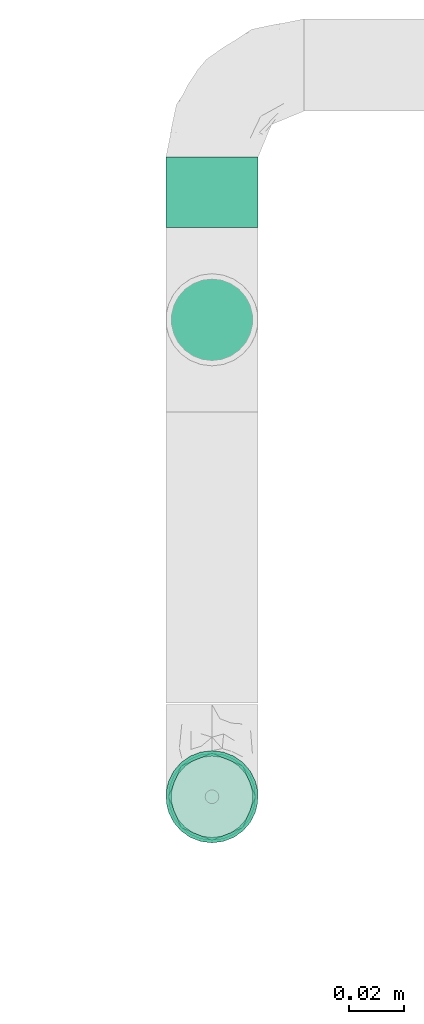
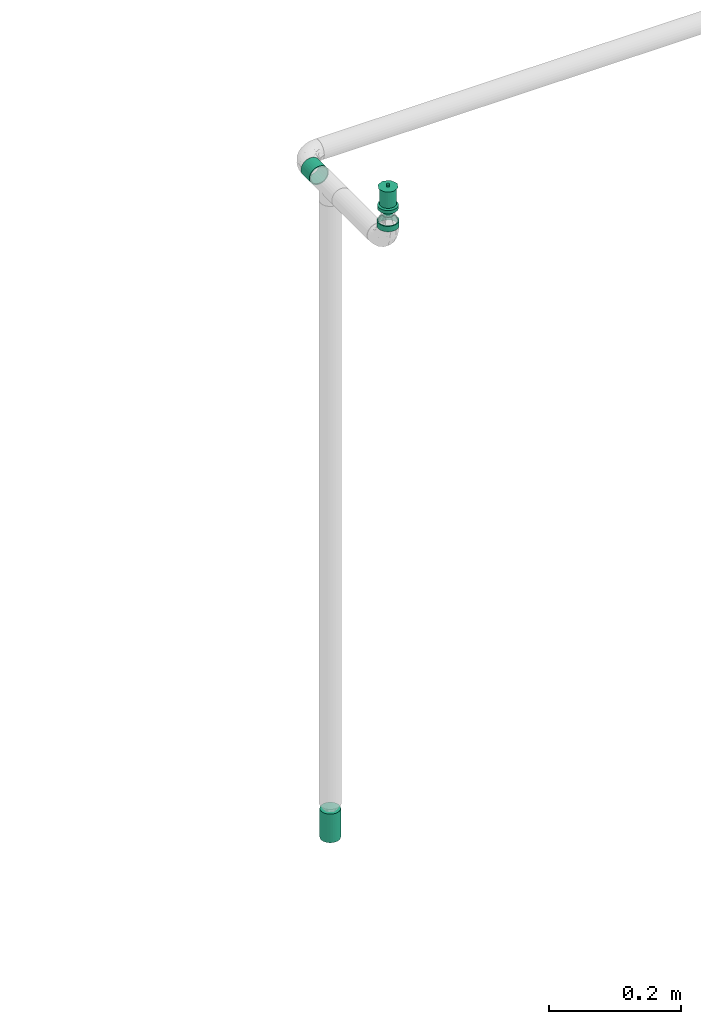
# One storey, part 73 of 94: 2 flow segments, 2 flow terminals.
"""IFC2X3 building model written with IfcOpenShell, lengths in millimetres."""

from ifc_helpers import new_model, entity, si_unit, converted_unit, derived_unit, direction, frame, origin_with_axes, origin_2d_with_axis, place, context, subcontext, project, spatial, hollow_circle, extrude, open_shell, surface_model, source, transform, mapped, type_object, element, save


model = new_model("IFC2X3")

# Units and contexts
model_context = context("Model", 3, precision=0.01, world=frame((0.0, 4.29681676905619e-09, 0.0)), true_north=direction((4.01073788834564e-13, 1.0)))
plan_context = context("Plan", 3, precision=0.01, world=frame((0.0, 4.29681676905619e-09, 0.0)), true_north=direction((4.01073788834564e-13, 1.0)))
body_context = subcontext(model_context, "Body", "Model", "MODEL_VIEW")
ifc_project = project(units=[converted_unit("PLANEANGLEUNIT", "DEGREE", entity("IfcPositiveLengthMeasure", 0.0174532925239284), si_unit("PLANEANGLEUNIT", "RADIAN"), dimensions=[0, 0, 0, 0, 0, 0, 0]), si_unit("AREAUNIT", "SQUARE_METRE"), si_unit("LENGTHUNIT", "METRE", prefix="MILLI"), si_unit("MASSUNIT", "GRAM", prefix="KILO"), si_unit("POWERUNIT", "WATT"), si_unit("PRESSUREUNIT", "PASCAL", prefix="KILO"), si_unit("FORCEUNIT", "NEWTON", prefix="KILO"), si_unit("ELECTRICVOLTAGEUNIT", "VOLT"), si_unit("ELECTRICCURRENTUNIT", "AMPERE"), si_unit("THERMODYNAMICTEMPERATUREUNIT", "DEGREE_CELSIUS"), si_unit("TIMEUNIT", "SECOND"), si_unit("VOLUMEUNIT", "CUBIC_METRE"), derived_unit("LINEARVELOCITYUNIT", [(si_unit("LENGTHUNIT", "METRE"), 1), (si_unit("TIMEUNIT", "SECOND"), -1)]), derived_unit("VOLUMETRICFLOWRATEUNIT", [(si_unit("VOLUMEUNIT", "CUBIC_METRE"), 1), (si_unit("TIMEUNIT", "SECOND"), -1)]), derived_unit("THERMALTRANSMITTANCEUNIT", [(si_unit("POWERUNIT", "WATT"), 1), (si_unit("THERMODYNAMICTEMPERATUREUNIT", "KELVIN"), -1), (si_unit("AREAUNIT", "SQUARE_METRE"), -1)]), derived_unit("SOUNDPRESSUREUNIT", [(si_unit("PRESSUREUNIT", "PASCAL"), 1)])], contexts=[model_context, plan_context])

# Site, building, storey
site_placement = place(None, frame((0.0, -4.29681676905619e-09, 0.0), z_axis=(0.0, 0.0, 1.0), x_axis=(1.0, 0.0, 0.0)))
site = spatial("IfcSite", under=ifc_project, at=site_placement, CompositionType="ELEMENT")
building_placement = place(site_placement, frame((0.0, 4.29681676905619e-09, 0.0), z_axis=(0.0, 0.0, 1.0), x_axis=(1.0, 0.0, 0.0)))
building = spatial("IfcBuilding", under=site, at=building_placement, Name="mc-building", CompositionType="ELEMENT")
storey_placement = place(building_placement, frame((0.0, 0.0, 210900.0), z_axis=(0.0, 0.0, 1.0), x_axis=(1.0, 0.0, 0.0)))
storey = spatial("IfcBuildingStorey", under=building, at=storey_placement, Name="Nivå F", CompositionType="ELEMENT", Elevation=210900.0)

# Flow segments
pipe_segment_type = type_object("IfcPipeSegmentType", Name="Stålrør normaltykke", PredefinedType="RIGIDSEGMENT")
shared_shape_1 = source(origin_with_axes(), body_context, "Body", "SweptSolid", [
    extrude(hollow_circle(Radius=16.9, WallThickness=2.0, at=origin_2d_with_axis()), frame((0.0, 0.0, 0.0), z_axis=(1.0, 0.0, 0.0), x_axis=(0.0, 1.0, 0.0)), (0.0, 0.0, 1.0), 10.1),
])
flow_segment_1_placement = place(storey_placement, frame((715905.60992, 443491.81041, 4233.79999999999), z_axis=(1.0, 0.0, 0.0), x_axis=(0.0, 0.0, 1.0)))
element("IfcFlowSegment", 1, at=flow_segment_1_placement, inside=storey, type_object=pipe_segment_type, Name="Stålrør normaltykke", context=body_context, shape_type="MappedRepresentation", body=[
    mapped(shared_shape_1, transform((0.0, 0.0, 0.0), scale=1.0)),
])
shared_shape_2 = source(origin_with_axes(), body_context, "Body", "SweptSolid", [
    extrude(hollow_circle(Radius=16.9, WallThickness=2.0, at=origin_2d_with_axis()), frame((0.0, 0.0, 0.0), z_axis=(1.0, 0.0, 0.0), x_axis=(0.0, 1.0, 0.0)), (0.0, 0.0, 1.0), 25.8),
])
flow_segment_2_placement = place(storey_placement, frame((715905.60992, 443726.3901, 4200.0), z_axis=(0.0, 0.0, 1.0), x_axis=(0.0, -1.0, 0.0)))
element("IfcFlowSegment", 2, at=flow_segment_2_placement, inside=storey, type_object=pipe_segment_type, Name="Stålrør normaltykke", context=body_context, shape_type="MappedRepresentation", body=[
    mapped(shared_shape_2, transform((0.0, 0.0, 0.0), scale=1.0)),
])

# Flow terminals
fire_suppression_terminal_type_1 = type_object("IfcFireSuppressionTerminalType", Name="68DGR-STD-STÅENDE", PredefinedType="NOTDEFINED")
shared_shape_3 = source(origin_with_axes(), body_context, "Body", "SurfaceModel", [
    surface_model("IfcShellBasedSurfaceModel", [(3.36465, -12.55704, 51.0), (6.5, -11.25833, 51.0), (9.19239, -9.19239, 51.0), (12.55704, -3.36465, 51.0), (-11.25833, -6.5, 51.0), (11.25833, -6.5, 51.0), (-13.0, 0.0, 51.0), (0.0, -13.0, 51.0), (-6.5, -11.25833, 51.0), (-3.36465, -12.55704, 51.0), (-9.19239, -9.19239, 51.0), (-12.55704, -3.36465, 51.0), (13.0, 0.0, 51.0), (12.55704, 3.36465, 51.0), (11.25833, 6.5, 51.0), (9.19239, 9.19239, 51.0), (6.5, 11.25833, 51.0), (3.36465, 12.55704, 51.0), (0.0, 13.0, 51.0), (-3.36465, 12.55704, 51.0), (-12.55704, 3.36465, 51.0), (-9.19239, 9.19239, 51.0), (-11.25833, 6.5, 51.0), (-6.5, 11.25833, 51.0), (0.0, 13.0, 21.14766), (3.36465, 12.55704, 21.14766), (6.5, 11.25833, 21.14766), (-3.36465, 12.55704, 21.14766), (9.19239, 9.19239, 21.14766), (11.25833, 6.5, 21.14766), (12.55704, 3.36465, 21.14766), (-12.55704, 3.36465, 21.14766), (-11.25833, -6.5, 21.14766), (-9.19239, 9.19239, 21.14766), (-6.5, 11.25833, 21.14766), (-11.25833, 6.5, 21.14766), (-13.0, 0.0, 21.14766), (12.55704, -3.36465, 21.14766), (9.19239, -9.19239, 21.14766), (11.25833, -6.5, 21.14766), (6.5, -11.25833, 21.14766), (3.36465, -12.55704, 21.14766), (-6.5, -11.25833, 21.14766), (-9.19239, -9.19239, 21.14766), (-12.55704, -3.36465, 21.14766), (0.0, -13.0, 21.14766), (-3.36465, -12.55704, 21.14766), (13.0, 0.0, 21.14766), (7.24444, -1.94114, 0.1), (1.94114, -7.24444, 0.1), (3.75, -6.49519, 0.1), (5.3033, -5.3033, 0.1), (-5.3033, -5.3033, 0.1), (6.49519, -3.75, 0.1), (5.3033, 5.3033, 0.1), (0.0, -7.5, 0.1), (-3.75, -6.49519, 0.1), (-1.94114, -7.24444, 0.1), (-7.24444, -1.94114, 0.1), (-6.49519, -3.75, 0.1), (-7.24444, 1.94114, 0.1), (7.5, 0.0, 0.1), (6.49519, 3.75, 0.1), (-6.49519, 3.75, 0.1), (1.94114, 7.24444, 0.1), (0.0, 7.5, 0.1), (3.75, 6.49519, 0.1), (-7.5, 0.0, 0.1), (-5.3033, 5.3033, 0.1), (-1.94114, 7.24444, 0.1), (-3.75, 6.49519, 0.1), (7.24444, 1.94114, 0.1), (1.94114, 7.24444, -0.1), (-6.49519, 3.75, -0.1), (0.0, 7.5, -0.1), (5.3033, 5.3033, -0.1), (3.75, 6.49519, -0.1), (6.49519, 3.75, -0.1), (7.24444, 1.94114, -0.1), (-1.94114, 7.24444, -0.1), (-5.3033, 5.3033, -0.1), (-3.75, 6.49519, -0.1), (-7.24444, 1.94114, -0.1), (-7.24444, -1.94114, -0.1), (-7.5, 0.0, -0.1), (7.5, 0.0, -0.1), (7.24444, -1.94114, -0.1), (-5.3033, -5.3033, -0.1), (1.94114, -7.24444, -0.1), (6.49519, -3.75, -0.1), (5.3033, -5.3033, -0.1), (3.75, -6.49519, -0.1), (-6.49519, -3.75, -0.1), (-3.75, -6.49519, -0.1), (0.0, -7.5, -0.1), (-1.94114, -7.24444, -0.1), (0.0, -2.5, 51.0), (-2.5, 0.0, 51.0), (0.0, 2.5, 51.0), (2.5, 0.0, 51.0), (0.0, -16.0, 53.0), (11.31371, -11.31371, 53.0), (-11.31371, -11.31371, 53.0), (-16.0, 0.0, 53.0), (16.0, 0.0, 53.0), (11.31371, 11.31371, 53.0), (0.0, 16.0, 53.0), (-11.31371, 11.31371, 53.0), (1.25, -2.16506, 57.0), (0.0, -2.5, 57.0), (0.64705, -2.41481, 57.0), (2.41481, -0.64705, 57.0), (1.76777, -1.76777, 57.0), (-2.41481, -0.64705, 57.0), (-2.5, 0.0, 57.0), (2.16506, -1.25, 57.0), (-1.25, -2.16506, 57.0), (-0.64705, -2.41481, 57.0), (-1.76777, -1.76777, 57.0), (-2.16506, -1.25, 57.0), (2.5, 0.0, 57.0), (2.41481, 0.64705, 57.0), (2.16506, 1.25, 57.0), (1.76777, 1.76777, 57.0), (0.64705, 2.41481, 57.0), (1.25, 2.16506, 57.0), (-1.76777, 1.76777, 57.0), (0.0, 2.5, 57.0), (-2.16506, 1.25, 57.0), (-2.41481, 0.64705, 57.0), (-0.64705, 2.41481, 57.0), (-1.25, 2.16506, 57.0), (1.25, 2.16506, 51.0), (1.76777, 1.76777, 51.0), (1.15, 1.99186, 51.0), (0.59528, 2.22163, 51.0), (0.64705, 2.41481, 51.0), (0.0, 2.3, 51.0), (1.62635, 1.62635, 51.0), (2.41481, 0.64705, 51.0), (2.3, 0.0, 51.0), (2.22163, 0.59528, 51.0), (2.16506, 1.25, 51.0), (1.99186, 1.15, 51.0), (-0.59528, 2.22163, 51.0), (-0.64705, 2.41481, 51.0), (-1.15, 1.99186, 51.0), (-1.76777, 1.76777, 51.0), (-1.25, 2.16506, 51.0), (-1.62635, 1.62635, 51.0), (-1.99186, 1.15, 51.0), (-2.16506, 1.25, 51.0), (-2.22163, 0.59528, 51.0), (-2.41481, 0.64705, 51.0), (-2.3, 0.0, 51.0), (2.41481, -0.64705, 51.0), (2.22163, -0.59528, 51.0), (1.99186, -1.15, 51.0), (2.16506, -1.25, 51.0), (1.62635, -1.62635, 51.0), (1.76777, -1.76777, 51.0), (1.25, -2.16506, 51.0), (1.15, -1.99186, 51.0), (0.59528, -2.22163, 51.0), (0.64705, -2.41481, 51.0), (0.0, -2.3, 51.0), (-2.16506, -1.25, 51.0), (-1.99186, -1.15, 51.0), (-1.76777, -1.76777, 51.0), (-1.62635, -1.62635, 51.0), (-2.41481, -0.64705, 51.0), (-2.22163, -0.59528, 51.0), (-0.59528, -2.22163, 51.0), (-0.64705, -2.41481, 51.0), (-1.15, -1.99186, 51.0), (-1.25, -2.16506, 51.0), (1.62635, -1.62635, 56.8), (1.15, -1.99186, 56.8), (0.59528, -2.22163, 56.8), (0.0, -2.3, 56.8), (2.22163, 0.59528, 56.8), (1.99186, -1.15, 56.8), (2.22163, -0.59528, 56.8), (-0.59528, -2.22163, 56.8), (-1.15, -1.99186, 56.8), (-1.62635, -1.62635, 56.8), (-1.99186, -1.15, 56.8), (-2.22163, -0.59528, 56.8), (-1.99186, 1.15, 56.8), (2.3, 0.0, 56.8), (1.62635, 1.62635, 56.8), (1.99186, 1.15, 56.8), (1.15, 1.99186, 56.8), (0.0, 2.3, 56.8), (0.59528, 2.22163, 56.8), (-2.22163, 0.59528, 56.8), (-2.3, 0.0, 56.8), (-1.15, 1.99186, 56.8), (-0.59528, 2.22163, 56.8), (-1.62635, 1.62635, 56.8), (4.1411, -15.45481, 19.0), (8.0, -13.85641, 19.0), (11.31371, -11.31371, 19.0), (-8.0, -13.85641, 19.0), (15.45481, -4.1411, 19.0), (16.0, 0.0, 19.0), (13.85641, -8.0, 19.0), (0.0, -16.0, 19.0), (-4.1411, -15.45481, 19.0), (-13.85641, -8.0, 19.0), (-11.31371, -11.31371, 19.0), (-15.45481, -4.1411, 19.0), (15.45481, 4.1411, 19.0), (13.85641, 8.0, 19.0), (11.31371, 11.31371, 19.0), (-4.1411, 15.45481, 19.0), (8.0, 13.85641, 19.0), (4.1411, 15.45481, 19.0), (0.0, 16.0, 19.0), (-13.85641, 8.0, 19.0), (-15.45481, 4.1411, 19.0), (-16.0, 0.0, 19.0), (-11.31371, 11.31371, 19.0), (-8.0, 13.85641, 19.0), (0.0, 16.0, 13.0), (4.1411, 15.45481, 13.0), (8.0, 13.85641, 13.0), (-4.1411, 15.45481, 13.0), (11.31371, 11.31371, 13.0), (13.85641, 8.0, 13.0), (15.45481, 4.1411, 13.0), (-15.45481, -4.1411, 13.0), (-11.31371, 11.31371, 13.0), (-8.0, 13.85641, 13.0), (-13.85641, 8.0, 13.0), (-15.45481, 4.1411, 13.0), (-16.0, 0.0, 13.0), (4.1411, -15.45481, 13.0), (16.0, 0.0, 13.0), (15.45481, -4.1411, 13.0), (13.85641, -8.0, 13.0), (11.31371, -11.31371, 13.0), (8.0, -13.85641, 13.0), (-8.0, -13.85641, 13.0), (-13.85641, -8.0, 13.0), (-11.31371, -11.31371, 13.0), (0.0, -16.0, 13.0), (-4.1411, -15.45481, 13.0), (7.24444, -1.94114, 13.0), (1.94114, -7.24444, 13.0), (3.75, -6.49519, 13.0), (5.3033, -5.3033, 13.0), (-5.3033, -5.3033, 13.0), (6.49519, -3.75, 13.0), (5.3033, 5.3033, 13.0), (0.0, -7.5, 13.0), (-3.75, -6.49519, 13.0), (-1.94114, -7.24444, 13.0), (-7.24444, -1.94114, 13.0), (-6.49519, -3.75, 13.0), (-7.24444, 1.94114, 13.0), (7.5, 0.0, 13.0), (6.49519, 3.75, 13.0), (-6.49519, 3.75, 13.0), (1.94114, 7.24444, 13.0), (0.0, 7.5, 13.0), (3.75, 6.49519, 13.0), (-7.5, 0.0, 13.0), (-5.3033, 5.3033, 13.0), (-1.94114, 7.24444, 13.0), (-3.75, 6.49519, 13.0), (7.24444, 1.94114, 13.0), (3.75, 6.49519, 0.0), (5.3033, 5.3033, 0.0), (3.65, 6.32199, 0.0), (1.88938, 7.05126, 0.0), (0.0, 7.3, 0.0), (1.94114, 7.24444, 0.0), (0.0, 7.5, 0.0), (5.16188, 5.16188, 0.0), (7.24444, 1.94114, 0.0), (7.3, 0.0, 0.0), (7.05126, 1.88938, 0.0), (7.5, 0.0, 0.0), (6.49519, 3.75, 0.0), (6.32199, 3.65, 0.0), (-1.88938, 7.05126, 0.0), (-1.94114, 7.24444, 0.0), (-3.65, 6.32199, 0.0), (-5.3033, 5.3033, 0.0), (-3.75, 6.49519, 0.0), (-5.16188, 5.16188, 0.0), (-6.32199, 3.65, 0.0), (-6.49519, 3.75, 0.0), (-7.05126, 1.88938, 0.0), (-7.24444, 1.94114, 0.0), (-7.3, 0.0, 0.0), (-7.5, 0.0, 0.0), (7.24444, -1.94114, 0.0), (7.05126, -1.88938, 0.0), (6.32199, -3.65, 0.0), (6.49519, -3.75, 0.0), (5.16188, -5.16188, 0.0), (5.3033, -5.3033, 0.0), (3.75, -6.49519, 0.0), (3.65, -6.32199, 0.0), (1.88938, -7.05126, 0.0), (1.94114, -7.24444, 0.0), (0.0, -7.3, 0.0), (0.0, -7.5, 0.0), (-6.49519, -3.75, 0.0), (-6.32199, -3.65, 0.0), (-5.3033, -5.3033, 0.0), (-5.16188, -5.16188, 0.0), (-7.24444, -1.94114, 0.0), (-7.05126, -1.88938, 0.0), (-1.88938, -7.05126, 0.0), (-1.94114, -7.24444, 0.0), (-3.65, -6.32199, 0.0), (-3.75, -6.49519, 0.0), (1.88938, -7.05126, 12.8), (0.0, -7.3, 12.8), (3.65, -6.32199, 12.8), (5.16188, -5.16188, 12.8), (6.32199, -3.65, 12.8), (7.05126, 1.88938, 12.8), (7.05126, -1.88938, 12.8), (-5.16188, -5.16188, 12.8), (-1.88938, -7.05126, 12.8), (-3.65, -6.32199, 12.8), (-6.32199, -3.65, 12.8), (-7.05126, -1.88938, 12.8), (0.0, 7.3, 12.8), (7.3, 0.0, 12.8), (6.32199, 3.65, 12.8), (5.16188, 5.16188, 12.8), (3.65, 6.32199, 12.8), (1.88938, 7.05126, 12.8), (-6.32199, 3.65, 12.8), (-7.05126, 1.88938, 12.8), (-7.3, 0.0, 12.8), (-3.65, 6.32199, 12.8), (-1.88938, 7.05126, 12.8), (-5.16188, 5.16188, 12.8)], [open_shell([[[0, 1, 2]], [[0, 2, 3]], [[0, 3, 4]], [[3, 2, 5]], [[6, 4, 3]], [[7, 8, 9]], [[7, 0, 8]], [[8, 4, 10]], [[0, 4, 8]], [[4, 6, 11]], [[6, 3, 12]], [[13, 14, 15]], [[6, 13, 15]], [[16, 17, 18]], [[15, 16, 19]], [[18, 19, 16]], [[20, 21, 22]], [[20, 6, 15]], [[21, 19, 23]], [[19, 21, 20]], [[15, 19, 20]], [[13, 6, 12]], [[24, 25, 26]], [[27, 24, 26]], [[28, 29, 30]], [[26, 28, 31]], [[28, 32, 31]], [[27, 33, 34]], [[33, 27, 31]], [[33, 31, 35]], [[27, 26, 31]], [[31, 32, 36]], [[32, 28, 30]], [[32, 30, 37]], [[38, 37, 39]], [[38, 40, 41]], [[38, 41, 37]], [[32, 37, 41]], [[32, 42, 43]], [[44, 36, 32]], [[42, 45, 46]], [[42, 32, 41]], [[45, 42, 41]], [[30, 47, 37]], [[4, 32, 43]], [[8, 42, 46]], [[43, 42, 10]], [[9, 46, 45]], [[36, 11, 6]], [[11, 36, 44]], [[11, 44, 4]], [[44, 32, 4]], [[43, 10, 4]], [[8, 10, 42]], [[46, 9, 8]], [[45, 7, 9]], [[0, 41, 40]], [[38, 1, 40]], [[5, 39, 37]], [[38, 39, 2]], [[3, 37, 47]], [[41, 0, 7]], [[40, 1, 0]], [[38, 2, 1]], [[39, 5, 2]], [[3, 5, 37]], [[47, 12, 3]], [[41, 7, 45]], [[30, 13, 47]], [[29, 14, 30]], [[25, 24, 17]], [[15, 29, 28]], [[30, 14, 13]], [[13, 12, 47]], [[16, 26, 17]], [[16, 15, 28]], [[26, 25, 17]], [[15, 14, 29]], [[28, 26, 16]], [[24, 18, 17]], [[19, 27, 34]], [[33, 23, 34]], [[22, 35, 31]], [[33, 35, 21]], [[20, 31, 36]], [[27, 19, 18]], [[34, 23, 19]], [[33, 21, 23]], [[35, 22, 21]], [[20, 22, 31]], [[36, 6, 20]], [[27, 18, 24]], [[48, 49, 50]], [[48, 50, 51]], [[49, 48, 52]], [[48, 51, 53]], [[54, 52, 48]], [[55, 56, 57]], [[56, 55, 52]], [[52, 58, 59]], [[52, 55, 49]], [[52, 60, 58]], [[54, 48, 61]], [[62, 54, 61]], [[54, 63, 52]], [[64, 65, 54]], [[64, 54, 66]], [[63, 54, 65]], [[63, 60, 52]], [[67, 58, 60]], [[68, 69, 70]], [[69, 68, 63]], [[69, 63, 65]], [[71, 62, 61]], [[72, 73, 74]], [[75, 72, 76]], [[75, 77, 78]], [[72, 75, 73]], [[78, 73, 75]], [[79, 80, 81]], [[80, 79, 73]], [[74, 73, 79]], [[78, 82, 73]], [[82, 83, 84]], [[82, 78, 85]], [[86, 87, 85]], [[88, 86, 89]], [[90, 91, 88]], [[90, 88, 89]], [[87, 86, 88]], [[83, 87, 92]], [[83, 85, 87]], [[93, 94, 95]], [[94, 93, 87]], [[88, 94, 87]], [[85, 83, 82]], [[83, 58, 84]], [[92, 59, 83]], [[56, 87, 93]], [[92, 87, 52]], [[57, 93, 95]], [[83, 59, 58]], [[58, 67, 84]], [[57, 56, 93]], [[52, 87, 56]], [[52, 59, 92]], [[55, 57, 95]], [[95, 94, 55]], [[88, 49, 94]], [[91, 50, 88]], [[53, 90, 89]], [[91, 90, 51]], [[48, 89, 86]], [[91, 51, 50]], [[50, 49, 88]], [[61, 48, 86]], [[53, 89, 48]], [[53, 51, 90]], [[85, 61, 86]], [[94, 49, 55]], [[78, 71, 85]], [[77, 62, 78]], [[66, 75, 76]], [[77, 75, 54]], [[64, 76, 72]], [[78, 62, 71]], [[71, 61, 85]], [[64, 66, 76]], [[54, 75, 66]], [[54, 62, 77]], [[65, 64, 72]], [[72, 74, 65]], [[79, 69, 74]], [[81, 70, 79]], [[63, 80, 73]], [[81, 80, 68]], [[60, 73, 82]], [[81, 68, 70]], [[70, 69, 79]], [[67, 60, 82]], [[63, 73, 60]], [[63, 68, 80]], [[84, 67, 82]], [[74, 69, 65]], [[96, 97, 98]], [[98, 99, 96]], [[100, 101, 102]], [[103, 102, 101]], [[101, 104, 103]], [[104, 105, 106]], [[107, 103, 106]], [[106, 103, 104]], [[99, 98, 105]], [[105, 104, 99]], [[98, 106, 105]], [[98, 107, 106]], [[107, 98, 97]], [[103, 107, 97]], [[97, 96, 102]], [[102, 103, 97]], [[96, 100, 102]], [[96, 101, 100]], [[101, 96, 99]], [[104, 101, 99]], [[108, 109, 110]], [[111, 108, 112]], [[113, 108, 114]], [[111, 112, 115]], [[108, 111, 114]], [[109, 116, 117]], [[116, 109, 118]], [[118, 113, 119]], [[118, 109, 108]], [[108, 113, 118]], [[111, 120, 114]], [[121, 122, 123]], [[114, 121, 123]], [[114, 123, 124]], [[124, 123, 125]], [[126, 124, 127]], [[124, 128, 129]], [[129, 114, 124]], [[126, 130, 131]], [[128, 124, 126]], [[130, 126, 127]], [[121, 114, 120]], [[132, 133, 134]], [[132, 134, 135]], [[136, 135, 137]], [[135, 136, 132]], [[136, 137, 98]], [[134, 133, 138]], [[139, 140, 141]], [[140, 139, 99]], [[139, 141, 142]], [[138, 142, 143]], [[142, 138, 133]], [[143, 142, 141]], [[98, 144, 145]], [[98, 137, 144]], [[145, 144, 146]], [[147, 148, 149]], [[146, 148, 145]], [[149, 148, 146]], [[150, 151, 147]], [[151, 150, 152]], [[150, 147, 149]], [[153, 152, 154]], [[152, 153, 151]], [[153, 154, 97]], [[99, 155, 156]], [[156, 155, 157]], [[157, 158, 159]], [[158, 157, 155]], [[159, 158, 160]], [[160, 161, 162]], [[162, 161, 163]], [[163, 164, 165]], [[164, 163, 161]], [[165, 164, 96]], [[162, 159, 160]], [[166, 167, 168]], [[168, 167, 169]], [[167, 166, 170]], [[97, 171, 170]], [[170, 171, 167]], [[97, 154, 171]], [[172, 96, 173]], [[172, 173, 174]], [[169, 175, 168]], [[175, 169, 174]], [[175, 174, 173]], [[165, 96, 172]], [[156, 140, 99]], [[170, 113, 97]], [[166, 119, 170]], [[116, 168, 175]], [[166, 168, 118]], [[117, 175, 173]], [[170, 119, 113]], [[113, 114, 97]], [[117, 116, 175]], [[118, 168, 116]], [[118, 119, 166]], [[109, 117, 173]], [[173, 96, 109]], [[164, 110, 96]], [[161, 108, 164]], [[115, 160, 158]], [[161, 160, 112]], [[111, 158, 155]], [[161, 112, 108]], [[108, 110, 164]], [[120, 111, 155]], [[115, 158, 111]], [[115, 112, 160]], [[99, 120, 155]], [[96, 110, 109]], [[139, 121, 99]], [[142, 122, 139]], [[125, 133, 132]], [[142, 133, 123]], [[124, 132, 136]], [[139, 122, 121]], [[121, 120, 99]], [[124, 125, 132]], [[123, 133, 125]], [[123, 122, 142]], [[127, 124, 136]], [[136, 98, 127]], [[145, 130, 98]], [[148, 131, 145]], [[128, 147, 151]], [[148, 147, 126]], [[129, 151, 153]], [[148, 126, 131]], [[131, 130, 145]], [[114, 129, 153]], [[128, 151, 129]], [[128, 126, 147]], [[97, 114, 153]], [[98, 130, 127]], [[176, 177, 178]], [[176, 178, 179]], [[180, 176, 179]], [[181, 176, 182]], [[180, 182, 176]], [[183, 184, 179]], [[185, 179, 184]], [[186, 187, 185]], [[185, 187, 188]], [[179, 185, 188]], [[189, 182, 180]], [[190, 191, 180]], [[192, 190, 180]], [[193, 194, 192]], [[180, 193, 192]], [[188, 193, 180]], [[195, 188, 196]], [[196, 188, 187]], [[197, 198, 199]], [[188, 199, 198]], [[188, 198, 193]], [[180, 179, 188]], [[154, 187, 171]], [[171, 186, 167]], [[174, 169, 184]], [[185, 169, 167]], [[172, 174, 183]], [[187, 186, 171]], [[154, 196, 187]], [[174, 184, 183]], [[184, 169, 185]], [[167, 186, 185]], [[172, 183, 179]], [[179, 165, 172]], [[165, 178, 163]], [[163, 177, 162]], [[157, 159, 181]], [[176, 159, 162]], [[156, 157, 182]], [[177, 176, 162]], [[163, 178, 177]], [[156, 182, 189]], [[182, 157, 181]], [[159, 176, 181]], [[156, 189, 140]], [[179, 178, 165]], [[140, 180, 141]], [[141, 191, 143]], [[134, 138, 192]], [[190, 138, 143]], [[135, 134, 194]], [[180, 191, 141]], [[140, 189, 180]], [[134, 192, 194]], [[192, 138, 190]], [[143, 191, 190]], [[135, 194, 193]], [[193, 137, 135]], [[137, 198, 144]], [[144, 197, 146]], [[150, 149, 188]], [[199, 149, 146]], [[152, 150, 195]], [[197, 199, 146]], [[144, 198, 197]], [[152, 195, 196]], [[195, 150, 188]], [[149, 199, 188]], [[152, 196, 154]], [[193, 198, 137]], [[200, 201, 202]], [[203, 200, 202]], [[204, 205, 202]], [[204, 202, 206]], [[203, 202, 205]], [[207, 203, 208]], [[207, 200, 203]], [[203, 209, 210]], [[209, 203, 211]], [[205, 211, 203]], [[205, 212, 211]], [[212, 213, 214]], [[215, 212, 214]], [[216, 217, 218]], [[214, 216, 215]], [[218, 215, 216]], [[211, 219, 220]], [[221, 211, 220]], [[222, 215, 223]], [[215, 222, 219]], [[219, 211, 215]], [[211, 212, 215]], [[224, 225, 226]], [[227, 224, 226]], [[228, 229, 230]], [[227, 226, 228]], [[227, 228, 231]], [[227, 232, 233]], [[232, 227, 234]], [[234, 231, 235]], [[231, 234, 227]], [[235, 231, 236]], [[228, 230, 231]], [[237, 238, 239]], [[237, 239, 240]], [[241, 242, 237]], [[241, 237, 240]], [[238, 237, 243]], [[244, 243, 245]], [[243, 244, 231]], [[243, 246, 247]], [[243, 231, 238]], [[237, 246, 243]], [[238, 231, 230]], [[231, 211, 236]], [[244, 209, 231]], [[203, 245, 243]], [[244, 245, 210]], [[208, 243, 247]], [[231, 209, 211]], [[211, 221, 236]], [[208, 203, 243]], [[210, 245, 203]], [[210, 209, 244]], [[207, 208, 247]], [[247, 246, 207]], [[237, 200, 246]], [[242, 201, 237]], [[206, 241, 240]], [[242, 241, 202]], [[204, 240, 239]], [[242, 202, 201]], [[201, 200, 237]], [[205, 204, 239]], [[206, 240, 204]], [[206, 202, 241]], [[238, 205, 239]], [[246, 200, 207]], [[230, 212, 238]], [[229, 213, 230]], [[216, 228, 226]], [[229, 228, 214]], [[217, 226, 225]], [[230, 213, 212]], [[212, 205, 238]], [[217, 216, 226]], [[214, 228, 216]], [[214, 213, 229]], [[218, 217, 225]], [[225, 224, 218]], [[227, 215, 224]], [[233, 223, 227]], [[219, 232, 234]], [[233, 232, 222]], [[220, 234, 235]], [[233, 222, 223]], [[223, 215, 227]], [[221, 220, 235]], [[219, 234, 220]], [[219, 222, 232]], [[236, 221, 235]], [[224, 215, 218]], [[248, 249, 250]], [[248, 250, 251]], [[249, 248, 252]], [[248, 251, 253]], [[254, 252, 248]], [[255, 256, 257]], [[256, 255, 252]], [[252, 258, 259]], [[252, 255, 249]], [[252, 260, 258]], [[254, 248, 261]], [[262, 254, 261]], [[254, 263, 252]], [[264, 265, 254]], [[264, 254, 266]], [[263, 254, 265]], [[263, 260, 252]], [[267, 258, 260]], [[268, 269, 270]], [[269, 268, 263]], [[269, 263, 265]], [[271, 262, 261]], [[272, 273, 274]], [[272, 274, 275]], [[276, 277, 275]], [[277, 276, 278]], [[275, 277, 272]], [[274, 273, 279]], [[280, 281, 282]], [[281, 280, 283]], [[280, 282, 284]], [[279, 284, 285]], [[284, 279, 273]], [[285, 284, 282]], [[278, 286, 287]], [[287, 286, 288]], [[289, 290, 291]], [[288, 290, 287]], [[288, 291, 290]], [[278, 276, 286]], [[292, 293, 289]], [[293, 292, 294]], [[292, 289, 291]], [[295, 294, 296]], [[294, 295, 293]], [[295, 296, 297]], [[283, 298, 299]], [[299, 298, 300]], [[300, 301, 302]], [[301, 300, 298]], [[302, 301, 303]], [[303, 304, 305]], [[305, 304, 306]], [[306, 307, 308]], [[307, 306, 304]], [[308, 307, 309]], [[305, 302, 303]], [[310, 311, 312]], [[312, 311, 313]], [[311, 310, 314]], [[297, 315, 314]], [[314, 315, 311]], [[297, 296, 315]], [[316, 309, 317]], [[316, 317, 318]], [[313, 319, 312]], [[313, 318, 319]], [[319, 318, 317]], [[308, 309, 316]], [[299, 281, 283]], [[314, 258, 297]], [[310, 259, 314]], [[256, 312, 319]], [[310, 312, 252]], [[257, 319, 317]], [[314, 259, 258]], [[258, 267, 297]], [[257, 256, 319]], [[252, 312, 256]], [[252, 259, 310]], [[255, 257, 317]], [[317, 309, 255]], [[307, 249, 309]], [[304, 250, 307]], [[253, 303, 301]], [[304, 303, 251]], [[248, 301, 298]], [[304, 251, 250]], [[250, 249, 307]], [[261, 248, 298]], [[253, 301, 248]], [[253, 251, 303]], [[283, 261, 298]], [[309, 249, 255]], [[280, 271, 283]], [[284, 262, 280]], [[266, 273, 272]], [[284, 273, 254]], [[264, 272, 277]], [[280, 262, 271]], [[271, 261, 283]], [[264, 266, 272]], [[254, 273, 266]], [[254, 262, 284]], [[265, 264, 277]], [[277, 278, 265]], [[287, 269, 278]], [[290, 270, 287]], [[263, 289, 293]], [[290, 289, 268]], [[260, 293, 295]], [[290, 268, 270]], [[270, 269, 287]], [[267, 260, 295]], [[263, 293, 260]], [[263, 268, 289]], [[297, 267, 295]], [[278, 269, 265]], [[320, 321, 322]], [[323, 322, 324]], [[325, 326, 322]], [[324, 322, 326]], [[322, 327, 325]], [[328, 329, 321]], [[327, 321, 329]], [[330, 331, 327]], [[322, 321, 327]], [[331, 332, 327]], [[326, 325, 333]], [[334, 325, 332]], [[335, 334, 336]], [[332, 337, 336]], [[334, 332, 336]], [[331, 338, 332]], [[339, 338, 340]], [[340, 338, 331]], [[341, 342, 343]], [[332, 338, 343]], [[332, 343, 342]], [[332, 325, 327]], [[296, 331, 315]], [[315, 330, 311]], [[318, 313, 329]], [[327, 313, 311]], [[316, 318, 328]], [[331, 330, 315]], [[296, 340, 331]], [[318, 329, 328]], [[329, 313, 327]], [[311, 330, 327]], [[316, 328, 321]], [[321, 308, 316]], [[308, 320, 306]], [[306, 322, 305]], [[300, 302, 324]], [[323, 302, 305]], [[299, 300, 326]], [[322, 323, 305]], [[306, 320, 322]], [[299, 326, 333]], [[326, 300, 324]], [[302, 323, 324]], [[299, 333, 281]], [[321, 320, 308]], [[281, 325, 282]], [[282, 334, 285]], [[274, 279, 336]], [[335, 279, 285]], [[275, 274, 337]], [[325, 334, 282]], [[281, 333, 325]], [[274, 336, 337]], [[336, 279, 335]], [[285, 334, 335]], [[275, 337, 332]], [[332, 276, 275]], [[276, 342, 286]], [[286, 341, 288]], [[292, 291, 338]], [[343, 291, 288]], [[294, 292, 339]], [[341, 343, 288]], [[286, 342, 341]], [[294, 339, 340]], [[339, 292, 338]], [[291, 343, 338]], [[294, 340, 296]], [[332, 342, 276]]])]),
])
flow_terminal_1_placement = place(storey_placement, frame((715905.60992, 443491.81041, 4253.30072), z_axis=(0.0, 0.0, 1.0), x_axis=(1.0, 0.0, 0.0)))
element("IfcFlowTerminal", 3, at=flow_terminal_1_placement, inside=storey, type_object=fire_suppression_terminal_type_1, Name="68DGR-STD-STÅENDE", context=body_context, shape_type="MappedRepresentation", body=[
    mapped(shared_shape_3, transform((0.0, 0.0, 0.0), scale=1.0)),
])
fire_suppression_terminal_type_2 = type_object("IfcFireSuppressionTerminalType", Name="SP-15-K80-68DGR-STD-HIMLING", PredefinedType="NOTDEFINED")
shared_shape_4 = source(origin_with_axes(), body_context, "Body", "SurfaceModel", [
    surface_model("IfcShellBasedSurfaceModel", [(4.1411, -15.45481, 53.0), (8.0, -13.85641, 53.0), (11.31371, -11.31371, 53.0), (-8.0, -13.85641, 53.0), (15.45481, -4.1411, 53.0), (16.0, 0.0, 53.0), (13.85641, -8.0, 53.0), (0.0, -16.0, 53.0), (-4.1411, -15.45481, 53.0), (-13.85641, -8.0, 53.0), (-11.31371, -11.31371, 53.0), (-15.45481, -4.1411, 53.0), (15.45481, 4.1411, 53.0), (13.85641, 8.0, 53.0), (11.31371, 11.31371, 53.0), (-4.1411, 15.45481, 53.0), (8.0, 13.85641, 53.0), (4.1411, 15.45481, 53.0), (0.0, 16.0, 53.0), (-13.85641, 8.0, 53.0), (-15.45481, 4.1411, 53.0), (-16.0, 0.0, 53.0), (-11.31371, 11.31371, 53.0), (-8.0, 13.85641, 53.0), (0.0, 16.0, 0.0), (4.1411, 15.45481, 0.0), (8.0, 13.85641, 0.0), (-4.1411, 15.45481, 0.0), (11.31371, 11.31371, 0.0), (13.85641, 8.0, 0.0), (15.45481, 4.1411, 0.0), (-15.45481, -4.1411, 0.0), (-11.31371, 11.31371, 0.0), (-8.0, 13.85641, 0.0), (-13.85641, 8.0, 0.0), (-15.45481, 4.1411, 0.0), (-16.0, 0.0, 0.0), (4.1411, -15.45481, 0.0), (16.0, 0.0, 0.0), (15.45481, -4.1411, 0.0), (13.85641, -8.0, 0.0), (11.31371, -11.31371, 0.0), (8.0, -13.85641, 0.0), (-8.0, -13.85641, 0.0), (-13.85641, -8.0, 0.0), (-11.31371, -11.31371, 0.0), (0.0, -16.0, 0.0), (-4.1411, -15.45481, 0.0)], [open_shell([[[0, 1, 2]], [[3, 0, 2]], [[4, 5, 2]], [[4, 2, 6]], [[3, 2, 5]], [[7, 3, 8]], [[7, 0, 3]], [[3, 9, 10]], [[9, 3, 11]], [[5, 11, 3]], [[5, 12, 11]], [[12, 13, 14]], [[15, 12, 14]], [[16, 17, 18]], [[14, 16, 15]], [[18, 15, 16]], [[11, 19, 20]], [[21, 11, 20]], [[22, 15, 23]], [[15, 22, 19]], [[19, 11, 15]], [[11, 12, 15]], [[24, 25, 26]], [[27, 24, 26]], [[28, 29, 30]], [[27, 26, 28]], [[27, 28, 31]], [[27, 32, 33]], [[32, 27, 34]], [[34, 31, 35]], [[31, 34, 27]], [[35, 31, 36]], [[28, 30, 31]], [[37, 38, 39]], [[37, 39, 40]], [[41, 42, 37]], [[41, 37, 40]], [[38, 37, 43]], [[44, 43, 45]], [[43, 44, 31]], [[43, 46, 47]], [[43, 31, 38]], [[37, 46, 43]], [[38, 31, 30]], [[11, 31, 44]], [[45, 9, 44]], [[3, 43, 47]], [[45, 43, 10]], [[8, 47, 46]], [[31, 21, 36]], [[31, 11, 21]], [[44, 9, 11]], [[45, 10, 9]], [[3, 10, 43]], [[47, 8, 3]], [[46, 7, 8]], [[0, 37, 42]], [[41, 1, 42]], [[6, 40, 39]], [[41, 40, 2]], [[4, 39, 38]], [[37, 0, 7]], [[42, 1, 0]], [[41, 2, 1]], [[40, 6, 2]], [[4, 6, 39]], [[38, 5, 4]], [[37, 7, 46]], [[12, 38, 30]], [[13, 30, 29]], [[16, 26, 25]], [[17, 25, 24]], [[30, 13, 12]], [[12, 5, 38]], [[28, 14, 13]], [[28, 26, 14]], [[14, 26, 16]], [[25, 17, 16]], [[28, 13, 29]], [[24, 18, 17]], [[15, 27, 33]], [[32, 23, 33]], [[19, 34, 35]], [[32, 34, 22]], [[20, 35, 36]], [[27, 15, 18]], [[33, 23, 15]], [[32, 22, 23]], [[34, 19, 22]], [[20, 19, 35]], [[36, 21, 20]], [[27, 18, 24]]])]),
])
flow_terminal_2_placement = place(storey_placement, frame((715905.60992, 443666.74027, 3050.0), z_axis=(0.0, 0.0, -1.0), x_axis=(-1.0, 0.0, 0.0)))
element("IfcFlowTerminal", 4, at=flow_terminal_2_placement, inside=storey, type_object=fire_suppression_terminal_type_2, Name="SP-15-K80-68DGR-STD-HIMLING", context=body_context, shape_type="MappedRepresentation", body=[
    mapped(shared_shape_4, transform((0.0, 0.0, 0.0), scale=1.0)),
])

save(model, "model.ifc")
